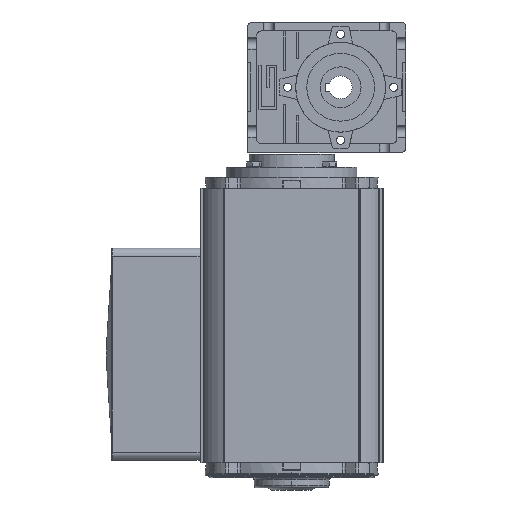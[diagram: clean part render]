
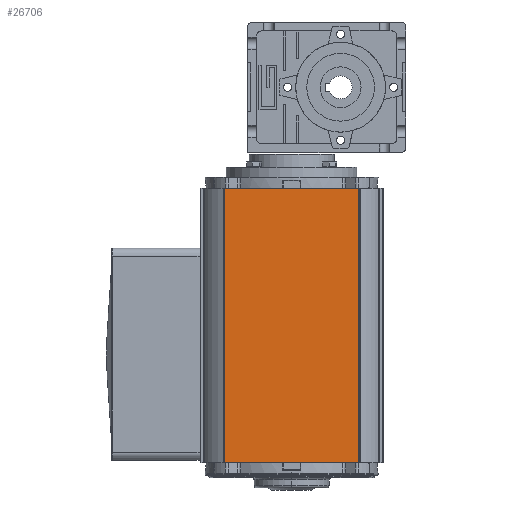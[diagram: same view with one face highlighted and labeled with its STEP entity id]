
A CAD part, left-side view. The second image highlights one B-rep face of the part: STEP entity #26706.
In plain terms, the highlighted planar face has unit normal (-1, 0, 0).
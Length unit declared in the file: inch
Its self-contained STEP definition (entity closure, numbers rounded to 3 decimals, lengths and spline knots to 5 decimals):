
#7711 = CARTESIAN_POINT ( 'NONE',  ( -2.21, -1.62, -2.31318 ) ) ;
#8232 = CARTESIAN_POINT ( 'NONE',  ( -2.21, 1.62, 4.30082 ) ) ;
#8391 = DIRECTION ( 'NONE',  ( 0., -1., 0. ) ) ;
#8392 = VECTOR ( 'NONE', #8391, 39.37008 ) ;
#8393 = CARTESIAN_POINT ( 'NONE',  ( -2.21, -2.21, -2.31318 ) ) ;
#8399 = LINE ( 'NONE', #8393, #8392 ) ;
#8461 = CARTESIAN_POINT ( 'NONE',  ( -2.21, 1.62, -2.31318 ) ) ;
#8495 = FACE_OUTER_BOUND ( 'NONE', #26510, .T. ) ;
#8549 = DIRECTION ( 'NONE',  ( 0., 0., 1. ) ) ;
#8550 = DIRECTION ( 'NONE',  ( -1., 0., 0. ) ) ;
#8551 = CARTESIAN_POINT ( 'NONE',  ( -2.21, -1.64, -3.88218 ) ) ;
#8552 = AXIS2_PLACEMENT_3D ( 'NONE', #8551, #8550, #8549 ) ;
#8553 = PLANE ( 'NONE',  #8552 ) ;
#8901 = DIRECTION ( 'NONE',  ( 0., 0., -1. ) ) ;
#8902 = VECTOR ( 'NONE', #8901, 39.37008 ) ;
#8903 = CARTESIAN_POINT ( 'NONE',  ( -2.21, 1.62, -3.88218 ) ) ;
#8904 = LINE ( 'NONE', #8903, #8902 ) ;
#9170 = DIRECTION ( 'NONE',  ( 0., 0., 1. ) ) ;
#9171 = VECTOR ( 'NONE', #9170, 39.37008 ) ;
#9172 = CARTESIAN_POINT ( 'NONE',  ( -2.21, -1.62, -3.88218 ) ) ;
#9173 = LINE ( 'NONE', #9172, #9171 ) ;
#9211 = DIRECTION ( 'NONE',  ( 0., -1., 0. ) ) ;
#9212 = VECTOR ( 'NONE', #9211, 39.37008 ) ;
#9213 = CARTESIAN_POINT ( 'NONE',  ( -2.21, -1.64, 4.30082 ) ) ;
#9214 = LINE ( 'NONE', #9213, #9212 ) ;
#9240 = CARTESIAN_POINT ( 'NONE',  ( -2.21, -1.62, 4.30082 ) ) ;
#26369 = VERTEX_POINT ( 'NONE', #7711 ) ;
#26499 = ORIENTED_EDGE ( 'NONE', *, *, #26863, .T. ) ;
#26510 = EDGE_LOOP ( 'NONE', ( #26499, #26648, #26976, #26975 ) ) ;
#26574 = VERTEX_POINT ( 'NONE', #8232 ) ;
#26647 = EDGE_CURVE ( 'NONE', #26664, #26369, #8399, .T. ) ;
#26648 = ORIENTED_EDGE ( 'NONE', *, *, #26647, .T. ) ;
#26664 = VERTEX_POINT ( 'NONE', #8461 ) ;
#26706 = ADVANCED_FACE ( 'NONE', ( #8495 ), #8553, .T. ) ;
#26863 = EDGE_CURVE ( 'NONE', #26574, #26664, #8904, .T. ) ;
#26974 = EDGE_CURVE ( 'NONE', #26369, #26992, #9173, .T. ) ;
#26975 = ORIENTED_EDGE ( 'NONE', *, *, #26983, .F. ) ;
#26976 = ORIENTED_EDGE ( 'NONE', *, *, #26974, .T. ) ;
#26983 = EDGE_CURVE ( 'NONE', #26574, #26992, #9214, .T. ) ;
#26992 = VERTEX_POINT ( 'NONE', #9240 ) ;
